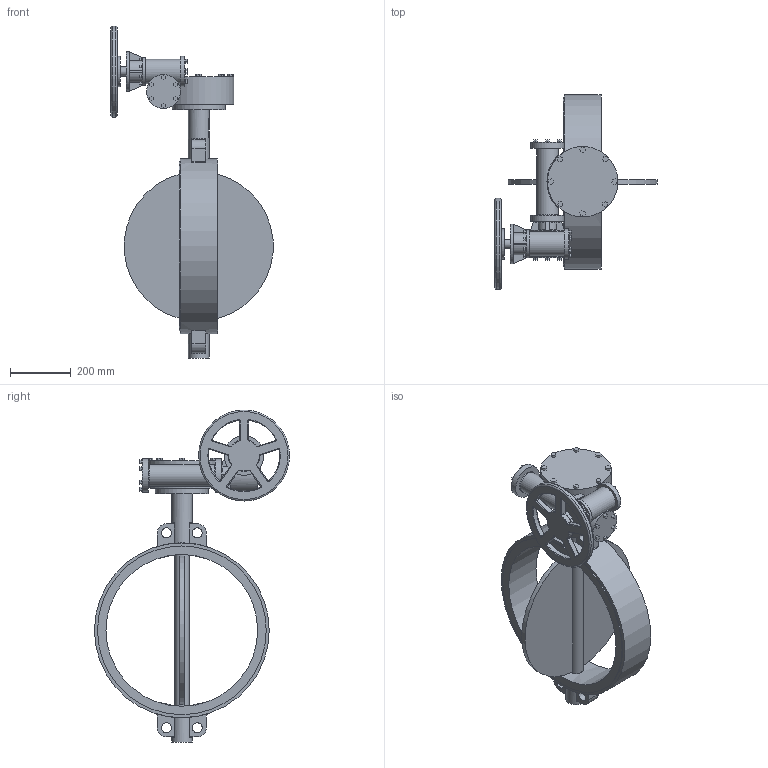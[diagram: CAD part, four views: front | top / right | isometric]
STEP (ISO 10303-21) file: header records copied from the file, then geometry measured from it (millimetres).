
FILE_DESCRIPTION(('STEP AP203'), '1');
FILE_NAME('青蜮铕 017W.YS_DN500_PN16_疱潴牝铕', '', ('UNSPECIFIED'), ('UNSPECIFIED'), 'ASCON STEP Converter 1.6', 'ASCON Math Kernel', '');
FILE_SCHEMA(('CONFIG_CONTROL_DESIGN'));
Length unit declared in the file: millimetre
Bounding box: 533.89 x 643 x 1094 mm (x, y, z)
Volume: 21058389.7 mm3; surface area: 1568591 mm2
Topology: 1 solids, 1 shells, 622 faces, 1537 edges, 976 vertices
Faces by surface type: plane 429, cylinder 107, torus 76, cone 8, bspline 2
Full cylindrical faces by diameter (mm): 15.294 x4, 18 x4, 30 x1, 33 x4, 48 x1, 68 x2, 71 x1, 80 x1, 92 x1, 100 x2, 111 x3, 130 x1, 175 x1, 232 x1, 300 x1, 500 x1, 556 x2, 576 x1
Entity records: 25625 total; most frequent: CARTESIAN_POINT 5803, DIRECTION 3082, ORIENTED_EDGE 2972, EDGE_CURVE 1486, LINE 1048, VECTOR 1048, AXIS2_PLACEMENT_3D 1017, VERTEX_POINT 972
